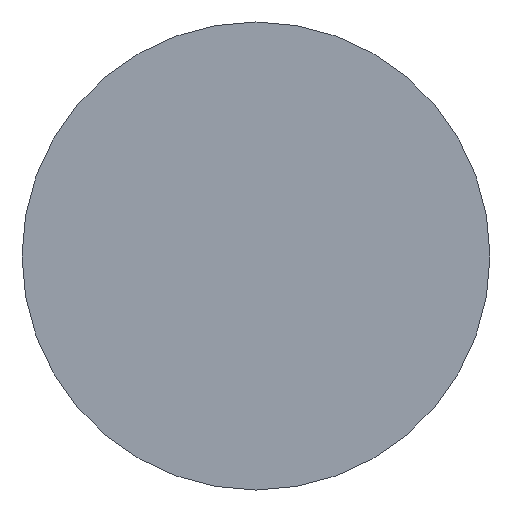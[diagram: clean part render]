
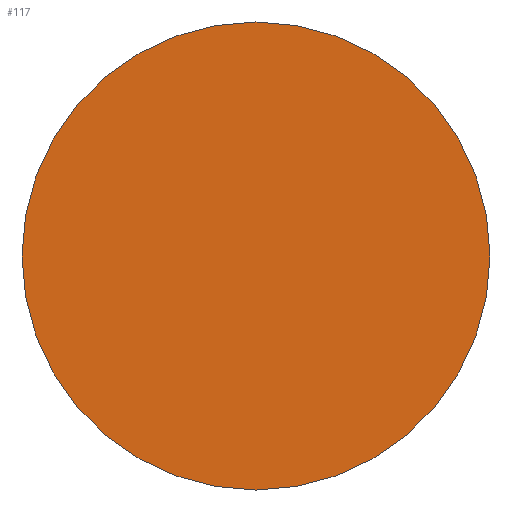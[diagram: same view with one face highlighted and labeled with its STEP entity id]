
A CAD part, left-side view. The second image highlights one B-rep face of the part: STEP entity #117.
In plain terms, the highlighted planar face has unit normal (-1, 0, 0).
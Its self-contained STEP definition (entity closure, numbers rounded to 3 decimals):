
#24 = VERTEX_POINT('',#25);
#25 = CARTESIAN_POINT('',(-42.65,34.,-1.));
#32 = CYLINDRICAL_SURFACE('',#33,1.);
#33 = AXIS2_PLACEMENT_3D('',#34,#35,#36);
#34 = CARTESIAN_POINT('',(-33.5,34.,0.));
#35 = DIRECTION('',(1.,-0.,0.));
#36 = DIRECTION('',(0.,-0.,-1.));
#51 = EDGE_CURVE('',#24,#24,#52,.T.);
#52 = SURFACE_CURVE('',#53,(#58,#65),.PCURVE_S1.);
#53 = CIRCLE('',#54,1.);
#54 = AXIS2_PLACEMENT_3D('',#55,#56,#57);
#55 = CARTESIAN_POINT('',(-42.65,34.,0.));
#56 = DIRECTION('',(1.,0.,0.));
#57 = DIRECTION('',(0.,-0.,-1.));
#58 = PCURVE('',#32,#59);
#59 = DEFINITIONAL_REPRESENTATION('',(#60),#64);
#60 = LINE('',#61,#62);
#61 = CARTESIAN_POINT('',(0.,-9.15));
#62 = VECTOR('',#63,1.);
#63 = DIRECTION('',(1.,0.));
#64 = ( GEOMETRIC_REPRESENTATION_CONTEXT(2) 
PARAMETRIC_REPRESENTATION_CONTEXT() REPRESENTATION_CONTEXT('2D SPACE',''
  ) );
#65 = PCURVE('',#66,#71);
#66 = PLANE('',#67);
#67 = AXIS2_PLACEMENT_3D('',#68,#69,#70);
#68 = CARTESIAN_POINT('',(-42.65,34.,0.));
#69 = DIRECTION('',(-1.,-0.,0.));
#70 = DIRECTION('',(0.,0.,1.));
#71 = DEFINITIONAL_REPRESENTATION('',(#72),#80);
#72 = ( BOUNDED_CURVE() B_SPLINE_CURVE(2,(#73,#74,#75,#76,#77,#78,#79),
.UNSPECIFIED.,.T.,.F.) B_SPLINE_CURVE_WITH_KNOTS((1,2,2,2,2,1),(
    -2.094,0.,2.094,4.189,6.283,
8.378),.UNSPECIFIED.) CURVE() GEOMETRIC_REPRESENTATION_ITEM() 
RATIONAL_B_SPLINE_CURVE((1.,0.5,1.,0.5,1.,0.5,1.)) REPRESENTATION_ITEM(
  '') );
#73 = CARTESIAN_POINT('',(-1.,0.));
#74 = CARTESIAN_POINT('',(-1.,1.732));
#75 = CARTESIAN_POINT('',(0.5,0.866));
#76 = CARTESIAN_POINT('',(2.,0.));
#77 = CARTESIAN_POINT('',(0.5,-0.866));
#78 = CARTESIAN_POINT('',(-1.,-1.732));
#79 = CARTESIAN_POINT('',(-1.,0.));
#80 = ( GEOMETRIC_REPRESENTATION_CONTEXT(2) 
PARAMETRIC_REPRESENTATION_CONTEXT() REPRESENTATION_CONTEXT('2D SPACE',''
  ) );
#117 = ADVANCED_FACE('',(#118),#66,.T.);
#118 = FACE_BOUND('',#119,.F.);
#119 = EDGE_LOOP('',(#120));
#120 = ORIENTED_EDGE('',*,*,#51,.T.);
